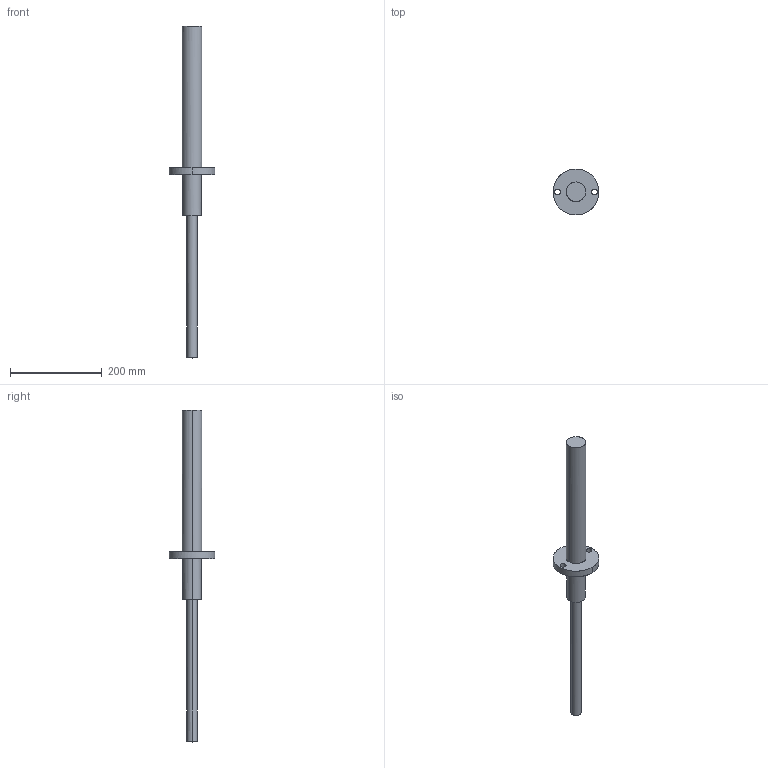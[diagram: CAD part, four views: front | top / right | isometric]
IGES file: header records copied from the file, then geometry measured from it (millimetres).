
Global section: file name: E:\UnigraphicsGraphicData\MISUMI_PRESS-PARTS\IGES\3d_paps300-90_01689_r00.igs; native system: NX V5.0; preprocessor: UGS NX IGES V5.0; author: MISUMI; date: 20110105.162224; units: millimetre
Bounding box: 100 x 100 x 724 mm (x, y, z)
Surface area: 100054 mm2 (no closed solid volume)
Topology: 0 solids, 0 shells, 22 faces, 232 edges, 230 vertices
Faces by surface type: bspline 22
